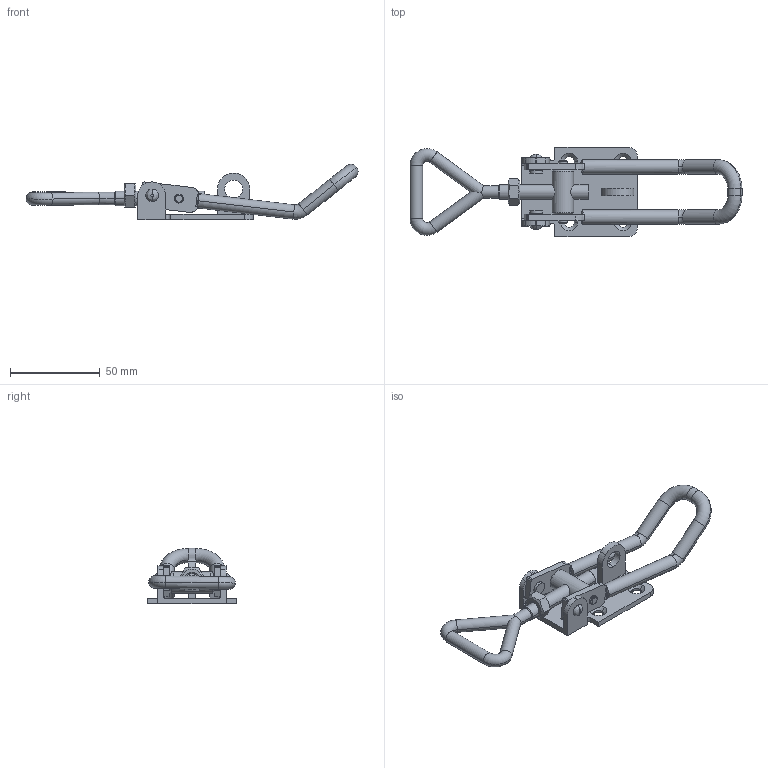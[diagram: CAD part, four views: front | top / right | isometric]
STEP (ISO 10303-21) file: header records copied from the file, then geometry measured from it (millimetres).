
FILE_DESCRIPTION((''),'2;1');
FILE_NAME('3125.stp','2011-12-12T10:20:56',(''),(''),'Mechanical Desktop 2006','Mechanical Desktop 2006',', , ');
FILE_SCHEMA(('AUTOMOTIVE_DESIGN { 1 2 10303 214 0 1 1 1 }'));
Length unit declared in the file: millimetre
Products named in the file (7): 3125._; GRUDPLATE 1; BOL M8 123-3; B軶E  L96; TEIL3; SECHSKANTMUTTER - DIN 555-5 - M8; TEIL1
Assembly tree (7 placements, depth 2):
  3125._
    GRUDPLATE 1
    BOL M8 123-3
    B軶E  L96
    TEIL3  x2
    SECHSKANTMUTTER - DIN 555-5 - M8
    TEIL1
Bounding box: 185.34 x 50 x 30.81 mm (x, y, z)
Volume: 35461 mm3; surface area: 22903.9 mm2
Topology: 7 solids, 7 shells, 204 faces, 527 edges, 333 vertices
Faces by surface type: cylinder 94, plane 56, cone 26, bspline 16, torus 12
Entity records: 8739 total; most frequent: CARTESIAN_POINT 3816, DIRECTION 1031, ORIENTED_EDGE 1000, EDGE_CURVE 500, AXIS2_PLACEMENT_3D 415, VERTEX_POINT 320, EDGE_LOOP 224, CIRCLE 221
